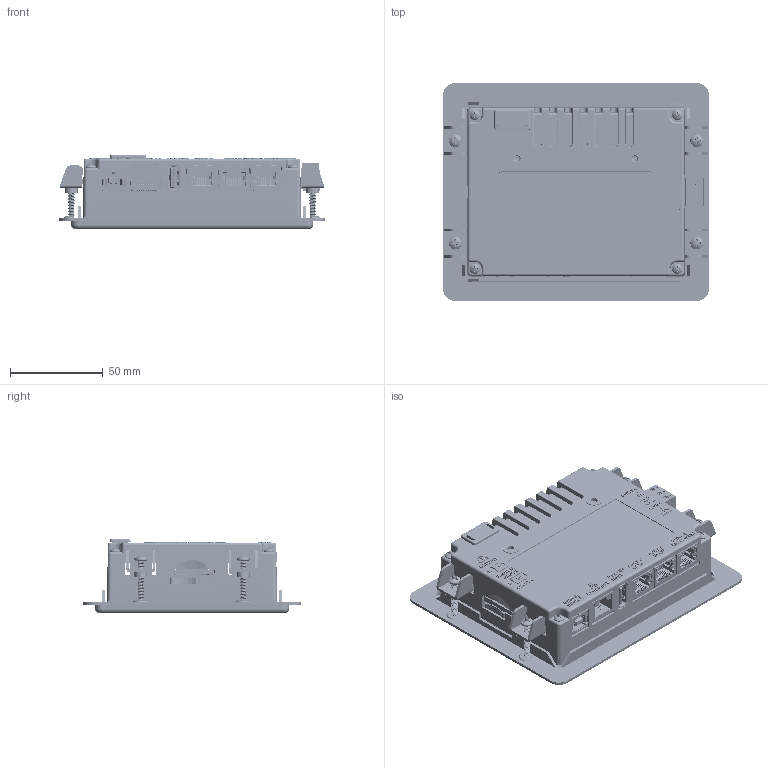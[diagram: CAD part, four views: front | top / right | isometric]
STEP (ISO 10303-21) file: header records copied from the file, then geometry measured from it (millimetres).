
FILE_DESCRIPTION(/* description */ ('Unknown'),/* implementation_level */ '2;1');
FILE_NAME(/* name */ 'CR300004',/* time_stamp */ '2017-12-21T06:17:21-05:00',/* author */ ('Unknown'),/* organization */ ('Unknown'),/* preprocessor_version */ 'ST-DEVELOPER v16.7',/* originating_system */ 'DEX',/* authorisation */ $);
FILE_SCHEMA (('AUTOMOTIVE_DESIGN {1 0 10303 214 3 1 1}'));
Products named in the file (84): Can4_V43; Can4_V43_0; Can4_V43_1; Can4_V43_2; Can4_V43_3; Can4_V43_4; DW-05-10-F-D-500__ZW-05-10-G-D-500-110bbody;_ZW-05-10-G-D-500-110bbod
y; COMPONENTS_SD_CARD_READER_FCI_10067847001rlf;10067847001rlf; Can4_V43_5; COMPONENTS_APBA3010ESGC-GX_APBA3010;APBA3010; COMPONENTS_USBR-A-S-X-X-VU_USBR-A-S-X-O-VU;USBR-A-S-X-O-VU; COMPONENTS_USBR-A-S-X-X-VU_USBR-A-S-X-O-VU;USBR-A-S-X-O-VU_0; COMPONENTS_5019514010_5019514010;5019514010; Can4_V43_6; Can4_V43_7; Can4_V43_8; Can4_V43_9; Can4_V43_10; Can4_V43_11; Can4_V43_12; Can4_V43_13; Can4_V43_14; Can4_V43_15; Can4_V43_16; Can4_V43_17; Can4_V43_18; Can4_V43_19; Can4_V43_20; Can4_V43_21; Can4_V43_22; Can4_V43_23; Can4_V43_24; Can4_V43_25; Can4_V43_26; Can4_V43_27; Can4_V43_28; 395340003; Can4_V43_29; Can4_V43_30; Can4_V43_31 ...
Assembly tree (83 placements, depth 2):
  Can4_V43
    Can4_V43
    Can4_V43_0
    Can4_V43_1
    Can4_V43_2
    Can4_V43_3
    Can4_V43_4
    DW-05-10-F-D-500__ZW-05-10-G-D-500-110bbody;_ZW-05-10-G-D-500-110bbod
y
    COMPONENTS_SD_CARD_READER_FCI_10067847001rlf;10067847001rlf
    Can4_V43_5
    COMPONENTS_APBA3010ESGC-GX_APBA3010;APBA3010
    COMPONENTS_USBR-A-S-X-X-VU_USBR-A-S-X-O-VU;USBR-A-S-X-O-VU
    COMPONENTS_USBR-A-S-X-X-VU_USBR-A-S-X-O-VU;USBR-A-S-X-O-VU_0
    COMPONENTS_5019514010_5019514010;5019514010
    Can4_V43_6
    Can4_V43_7
    Can4_V43_8
    Can4_V43_9
    Can4_V43_10
    Can4_V43_11
    Can4_V43_12
    Can4_V43_13
    Can4_V43_14
    Can4_V43_15
    Can4_V43_16
    Can4_V43_17
    Can4_V43_18
    Can4_V43_19
    Can4_V43_20
    Can4_V43_21
    Can4_V43_22
    Can4_V43_23
    Can4_V43_24
    Can4_V43_25
    Can4_V43_26
    Can4_V43_27
    Can4_V43_28
    395340003
    Can4_V43_29
    Can4_V43_30
    Can4_V43_31
    Can4_V43_32
    Can4_V43_33
    Can4_V43_34
    Can4_V43_35
    Can4_V43_36
    Can4_V43_37
    Can4_V43_38
    Can4_V43_39
    Can4_V43_40
    Can4_V43_41
    Can4_V43_42
    Can4_V43_43
    Can4_V43_44
    Can4_V43_45
    Can4_V43_46
    Can4_V43_47
    Can4_V43_48
    Can4_V43_49
    Can4_V43_50
Bounding box: 143.51 x 117.47 x 40.13 mm (x, y, z)
Volume: 239110.6 mm3; surface area: 247938.7 mm2
Topology: 83 solids, 89 shells, 14017 faces, 39728 edges, 26065 vertices
Faces by surface type: plane 10041, cylinder 2879, bspline 573, cone 337, torus 147, sphere 40
Full cylindrical faces by diameter (mm): 0.46 x2, 0.5 x5, 0.6 x2, 0.635 x2, 0.8 x1, 0.899 x2, 0.9 x1, 1.359 x2, 1.4 x1, 1.524 x3, 1.905 x1, 2 x1, 2.007 x3, 2.1 x1, 2.5 x1, 2.769 x4, 2.794 x3, 3.048 x6, 3.1 x2, 3.175 x6, 3.226 x4, 3.251 x2, 3.505 x4, 3.81 x2, 4.763 x2, 5.563 x4, 7.112 x4, 8.89 x4, 9 x1, 9.754 x1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
Entity records: 552723 total; most frequent: CARTESIAN_POINT 144065, ORIENTED_EDGE 79112, DIRECTION 68683, EDGE_CURVE 39556, LINE 30863, VECTOR 30863, VERTEX_POINT 26017, AXIS2_PLACEMENT_3D 18910
